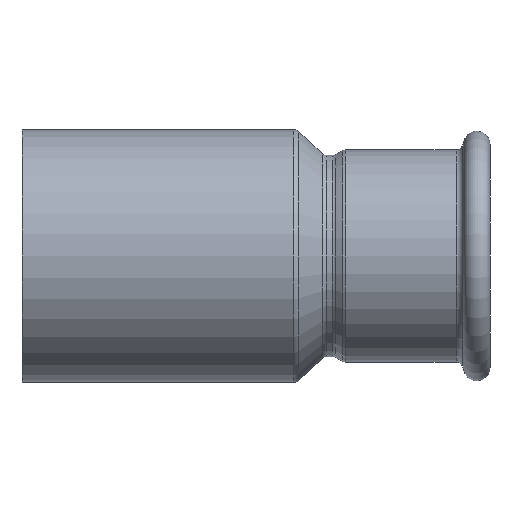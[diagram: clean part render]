
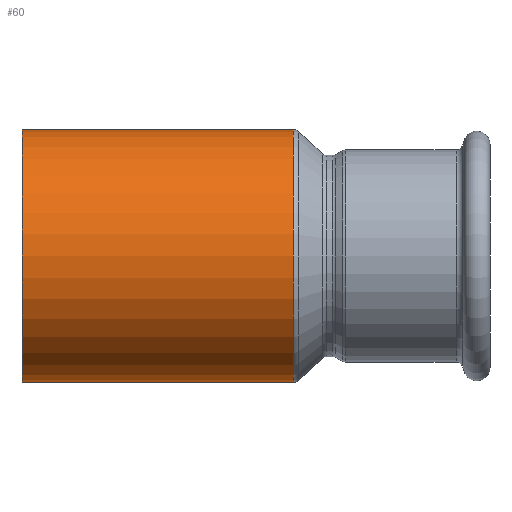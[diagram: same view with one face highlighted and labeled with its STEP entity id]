
A CAD part, front view. The second image highlights one B-rep face of the part: STEP entity #60.
In plain terms, the highlighted cylindrical face has radius 27 mm (diameter 54 mm), a partial arc.
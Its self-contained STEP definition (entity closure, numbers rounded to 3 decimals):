
#20 = CARTESIAN_POINT ( 'NONE',  ( 1.256, 0., 0. ) ) ;
#24 = VECTOR ( 'NONE', #943, 1000. ) ;
#60 = ADVANCED_FACE ( 'NONE', ( #331 ), #245, .T. ) ;
#74 = DIRECTION ( 'NONE',  ( -1., 0., 0. ) ) ;
#104 = ORIENTED_EDGE ( 'NONE', *, *, #946, .F. ) ;
#176 = EDGE_CURVE ( 'NONE', #1281, #1096, #184, .T. ) ;
#184 = CIRCLE ( 'NONE', #762, 27. ) ;
#196 = CARTESIAN_POINT ( 'NONE',  ( 1.256, 0., 27. ) ) ;
#198 = ORIENTED_EDGE ( 'NONE', *, *, #812, .T. ) ;
#222 = CARTESIAN_POINT ( 'NONE',  ( -53.513, 0., 27. ) ) ;
#245 = CYLINDRICAL_SURFACE ( 'NONE', #1007, 27. ) ;
#309 = LINE ( 'NONE', #222, #1085 ) ;
#331 = FACE_OUTER_BOUND ( 'NONE', #467, .T. ) ;
#363 = ORIENTED_EDGE ( 'NONE', *, *, #176, .F. ) ;
#416 = DIRECTION ( 'NONE',  ( 0., 0., -1. ) ) ;
#467 = EDGE_LOOP ( 'NONE', ( #104, #198, #1196, #363 ) ) ;
#524 = CARTESIAN_POINT ( 'NONE',  ( -53.513, 0., -27. ) ) ;
#542 = DIRECTION ( 'NONE',  ( 0., 0., 1. ) ) ;
#619 = VERTEX_POINT ( 'NONE', #196 ) ;
#627 = CARTESIAN_POINT ( 'NONE',  ( -56.744, 0., -27. ) ) ;
#690 = VERTEX_POINT ( 'NONE', #1335 ) ;
#721 = DIRECTION ( 'NONE',  ( -1., 0., 0. ) ) ;
#750 = DIRECTION ( 'NONE',  ( -1., 0., 0. ) ) ;
#762 = AXIS2_PLACEMENT_3D ( 'NONE', #1101, #74, #1312 ) ;
#812 = EDGE_CURVE ( 'NONE', #690, #619, #845, .T. ) ;
#844 = DIRECTION ( 'NONE',  ( -1., 0., 0. ) ) ;
#845 = CIRCLE ( 'NONE', #1255, 27. ) ;
#876 = EDGE_CURVE ( 'NONE', #619, #1096, #309, .T. ) ;
#943 = DIRECTION ( 'NONE',  ( -1., 0., 0. ) ) ;
#946 = EDGE_CURVE ( 'NONE', #690, #1281, #951, .T. ) ;
#951 = LINE ( 'NONE', #524, #24 ) ;
#1007 = AXIS2_PLACEMENT_3D ( 'NONE', #1164, #750, #542 ) ;
#1085 = VECTOR ( 'NONE', #721, 1000. ) ;
#1096 = VERTEX_POINT ( 'NONE', #1224 ) ;
#1101 = CARTESIAN_POINT ( 'NONE',  ( -56.744, 0., 0. ) ) ;
#1164 = CARTESIAN_POINT ( 'NONE',  ( -53.513, 0., 0. ) ) ;
#1196 = ORIENTED_EDGE ( 'NONE', *, *, #876, .T. ) ;
#1224 = CARTESIAN_POINT ( 'NONE',  ( -56.744, 0., 27. ) ) ;
#1255 = AXIS2_PLACEMENT_3D ( 'NONE', #20, #844, #416 ) ;
#1281 = VERTEX_POINT ( 'NONE', #627 ) ;
#1312 = DIRECTION ( 'NONE',  ( 0., 0., 1. ) ) ;
#1335 = CARTESIAN_POINT ( 'NONE',  ( 1.256, 0., -27. ) ) ;
